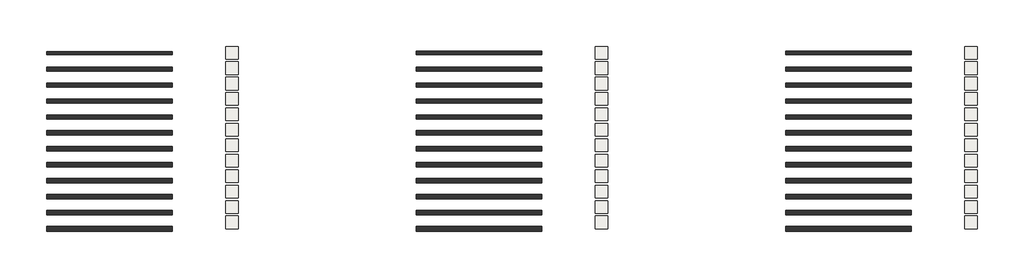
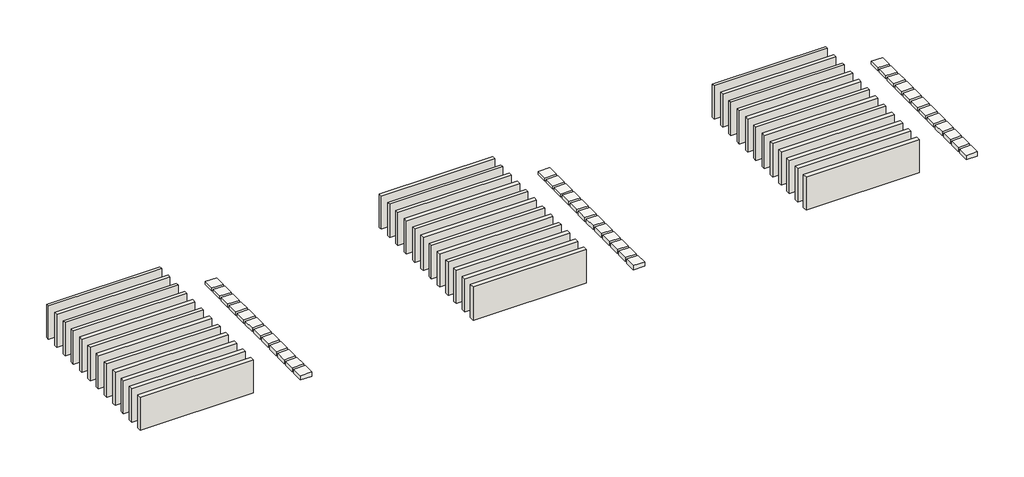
# One storey: 36 slabs, 36 walls.
"""IFC4 building model written with IfcOpenShell, lengths in millimetres."""

from ifc_helpers import new_model, si_unit, frame, origin, origin_with_axes, place, context, project, spatial, polyline, outline, extrude, element, save

model = new_model("IFC4")

# Units and contexts
model_context = context("Model", 3, world=origin())
ifc_project = project(units=[si_unit("LENGTHUNIT", "METRE", prefix="MILLI")], contexts=[model_context])

# Site, building, storey
site = spatial("IfcSite", under=ifc_project)
building = spatial("IfcBuilding", under=site)
storey = spatial("IfcBuildingStorey", under=building, Name="- SISTEMA A CAPPOTTO INTERNO SU CONTROPARETE - STIFERITE RP", Elevation=0.0)

# Slabs
placement = place(None, origin())
element("IfcSlab", 1, ObjectType="Cappotto interno su controsoffitto STIFERITE RP ʎd 0,022 W/mK 33mm", at=placement, inside=storey, context=model_context, shape_type="SweptSolid", body=[
    extrude(outline(polyline([(17023.7364619, 20109.6199307), (17023.7364619, 19109.6199307), (16023.7364619, 19109.6199307), (16023.7364619, 20109.6199307), (17023.7364619, 20109.6199307)])), frame((0.0, 0.0, -263.5), z_axis=(0.0, 0.0, 1.0), x_axis=(1.0, 0.0, 0.0)), (0.0, 0.0, 1.0), 263.5),
])
element("IfcSlab", 2, ObjectType="Cappotto interno su controsoffitto STIFERITE RP ʎd 0,022 W/mK 43mm", at=placement, inside=storey, context=model_context, shape_type="SweptSolid", body=[
    extrude(outline(polyline([(17023.7364619, 18880.6743729), (17023.7364619, 17880.6743729), (16023.7364619, 17880.6743729), (16023.7364619, 18880.6743729), (17023.7364619, 18880.6743729)])), frame((0.0, 0.0, -293.5), z_axis=(0.0, 0.0, 1.0), x_axis=(1.0, 0.0, 0.0)), (0.0, 0.0, 1.0), 293.5),
])
element("IfcSlab", 3, ObjectType="Cappotto interno su controsoffitto STIFERITE RP ʎd 0,022 W/mK 53mm", at=placement, inside=storey, context=model_context, shape_type="SweptSolid", body=[
    extrude(outline(polyline([(17023.7364619, 17651.7288151), (17023.7364619, 16651.7288151), (16023.7364619, 16651.7288151), (16023.7364619, 17651.7288151), (17023.7364619, 17651.7288151)])), frame((0.0, 0.0, -303.5), z_axis=(0.0, 0.0, 1.0), x_axis=(1.0, 0.0, 0.0)), (0.0, 0.0, 1.0), 303.5),
])
element("IfcSlab", 4, ObjectType="Cappotto interno su controsoffitto STIFERITE RP ʎd 0,022 W/mK 63mm", at=placement, inside=storey, context=model_context, shape_type="SweptSolid", body=[
    extrude(outline(polyline([(17023.7364619, 16422.7832573), (17023.7364619, 15422.7832573), (16023.7364619, 15422.7832573), (16023.7364619, 16422.7832573), (17023.7364619, 16422.7832573)])), frame((0.0, 0.0, -313.5), z_axis=(0.0, 0.0, 1.0), x_axis=(1.0, 0.0, 0.0)), (0.0, 0.0, 1.0), 313.5),
])
element("IfcSlab", 5, ObjectType="Cappotto interno su controsoffitto STIFERITE RP ʎd 0,022 W/mK 73mm", at=placement, inside=storey, context=model_context, shape_type="SweptSolid", body=[
    extrude(outline(polyline([(17023.7364619, 15193.8376995), (17023.7364619, 14193.8376995), (16023.7364619, 14193.8376995), (16023.7364619, 15193.8376995), (17023.7364619, 15193.8376995)])), frame((0.0, 0.0, -323.5), z_axis=(0.0, 0.0, 1.0), x_axis=(1.0, 0.0, 0.0)), (0.0, 0.0, 1.0), 323.5),
])
element("IfcSlab", 6, ObjectType="Cappotto interno su controsoffitto STIFERITE RP ʎd 0,022 W/mK 83mm", at=placement, inside=storey, context=model_context, shape_type="SweptSolid", body=[
    extrude(outline(polyline([(17023.7364619, 13964.8921417), (17023.7364619, 12964.8921417), (16023.7364619, 12964.8921417), (16023.7364619, 13964.8921417), (17023.7364619, 13964.8921417)])), frame((0.0, 0.0, -333.5), z_axis=(0.0, 0.0, 1.0), x_axis=(1.0, 0.0, 0.0)), (0.0, 0.0, 1.0), 333.5),
])
element("IfcSlab", 7, ObjectType="Cappotto interno su controsoffitto STIFERITE RP ʎd 0,022 W/mK 93mm", at=placement, inside=storey, context=model_context, shape_type="SweptSolid", body=[
    extrude(outline(polyline([(17023.7364619, 12735.946584), (17023.7364619, 11735.946584), (16023.7364619, 11735.946584), (16023.7364619, 12735.946584), (17023.7364619, 12735.946584)])), frame((0.0, 0.0, -343.5), z_axis=(0.0, 0.0, 1.0), x_axis=(1.0, 0.0, 0.0)), (0.0, 0.0, 1.0), 343.5),
])
element("IfcSlab", 8, ObjectType="Cappotto interno su controsoffitto STIFERITE RP ʎd 0,022 W/mK 103mm", at=placement, inside=storey, context=model_context, shape_type="SweptSolid", body=[
    extrude(outline(polyline([(17023.7364619, 11507.0010262), (17023.7364619, 10507.0010262), (16023.7364619, 10507.0010262), (16023.7364619, 11507.0010262), (17023.7364619, 11507.0010262)])), frame((0.0, 0.0, -353.5), z_axis=(0.0, 0.0, 1.0), x_axis=(1.0, 0.0, 0.0)), (0.0, 0.0, 1.0), 353.5),
])
element("IfcSlab", 9, ObjectType="Cappotto interno su controsoffitto STIFERITE RP ʎd 0,022 W/mK 113mm", at=placement, inside=storey, context=model_context, shape_type="SweptSolid", body=[
    extrude(outline(polyline([(17023.7364619, 10278.0554684), (17023.7364619, 9278.0554684), (16023.7364619, 9278.0554684), (16023.7364619, 10278.0554684), (17023.7364619, 10278.0554684)])), frame((0.0, 0.0, -363.5), z_axis=(0.0, 0.0, 1.0), x_axis=(1.0, 0.0, 0.0)), (0.0, 0.0, 1.0), 363.5),
])
element("IfcSlab", 10, ObjectType="Cappotto interno su controsoffitto STIFERITE RP ʎd 0,022 W/mK 123mm", at=placement, inside=storey, context=model_context, shape_type="SweptSolid", body=[
    extrude(outline(polyline([(17023.7364619, 9049.1099106), (17023.7364619, 8049.1099106), (16023.7364619, 8049.1099106), (16023.7364619, 9049.1099106), (17023.7364619, 9049.1099106)])), frame((0.0, 0.0, -373.5), z_axis=(0.0, 0.0, 1.0), x_axis=(1.0, 0.0, 0.0)), (0.0, 0.0, 1.0), 373.5),
])
element("IfcSlab", 11, ObjectType="Cappotto interno su controsoffitto STIFERITE RP ʎd 0,022 W/mK 133mm", at=placement, inside=storey, context=model_context, shape_type="SweptSolid", body=[
    extrude(outline(polyline([(17023.7364619, 7820.1643528), (17023.7364619, 6820.1643528), (16023.7364619, 6820.1643528), (16023.7364619, 7820.1643528), (17023.7364619, 7820.1643528)])), frame((0.0, 0.0, -383.5), z_axis=(0.0, 0.0, 1.0), x_axis=(1.0, 0.0, 0.0)), (0.0, 0.0, 1.0), 383.5),
])
element("IfcSlab", 12, ObjectType="Cappotto interno su controsoffitto STIFERITE RP ʎd 0,022 W/mK 153mm", at=placement, inside=storey, context=model_context, shape_type="SweptSolid", body=[
    extrude(outline(polyline([(17023.7364619, 6591.218795), (17023.7364619, 5591.218795), (16023.7364619, 5591.218795), (16023.7364619, 6591.218795), (17023.7364619, 6591.218795)])), frame((0.0, 0.0, -403.5), z_axis=(0.0, 0.0, 1.0), x_axis=(1.0, 0.0, 0.0)), (0.0, 0.0, 1.0), 403.5),
])
element("IfcSlab", 13, ObjectType="Cappotto interno su controsoffitto STIFERITE RP WP ʎd 0,022 W/mK 33mm", at=placement, inside=storey, context=model_context, shape_type="SweptSolid", body=[
    extrude(outline(polyline([(46423.7364619, 20109.6199307), (46423.7364619, 19109.6199307), (45423.7364619, 19109.6199307), (45423.7364619, 20109.6199307), (46423.7364619, 20109.6199307)])), frame((0.0, 0.0, -283.5), z_axis=(0.0, 0.0, 1.0), x_axis=(1.0, 0.0, 0.0)), (0.0, 0.0, 1.0), 283.5),
])
element("IfcSlab", 14, ObjectType="Cappotto interno su controsoffitto STIFERITE RP WP ʎd 0,022 W/mK 43mm", at=placement, inside=storey, context=model_context, shape_type="SweptSolid", body=[
    extrude(outline(polyline([(46423.7364619, 18880.6743729), (46423.7364619, 17880.6743729), (45423.7364619, 17880.6743729), (45423.7364619, 18880.6743729), (46423.7364619, 18880.6743729)])), frame((0.0, 0.0, -293.5), z_axis=(0.0, 0.0, 1.0), x_axis=(1.0, 0.0, 0.0)), (0.0, 0.0, 1.0), 293.5),
])
element("IfcSlab", 15, ObjectType="Cappotto interno su controsoffitto STIFERITE RP WP ʎd 0,022 W/mK 53mm", at=placement, inside=storey, context=model_context, shape_type="SweptSolid", body=[
    extrude(outline(polyline([(46423.7364619, 17651.7288151), (46423.7364619, 16651.7288151), (45423.7364619, 16651.7288151), (45423.7364619, 17651.7288151), (46423.7364619, 17651.7288151)])), frame((0.0, 0.0, -303.5), z_axis=(0.0, 0.0, 1.0), x_axis=(1.0, 0.0, 0.0)), (0.0, 0.0, 1.0), 303.5),
])
element("IfcSlab", 16, ObjectType="Cappotto interno su controsoffitto STIFERITE RP WP ʎd 0,022 W/mK 63mm", at=placement, inside=storey, context=model_context, shape_type="SweptSolid", body=[
    extrude(outline(polyline([(46423.7364619, 16422.7832573), (46423.7364619, 15422.7832573), (45423.7364619, 15422.7832573), (45423.7364619, 16422.7832573), (46423.7364619, 16422.7832573)])), frame((0.0, 0.0, -313.5), z_axis=(0.0, 0.0, 1.0), x_axis=(1.0, 0.0, 0.0)), (0.0, 0.0, 1.0), 313.5),
])
element("IfcSlab", 17, ObjectType="Cappotto interno su controsoffitto STIFERITE RP WP ʎd 0,022 W/mK 73mm", at=placement, inside=storey, context=model_context, shape_type="SweptSolid", body=[
    extrude(outline(polyline([(46423.7364619, 15193.8376995), (46423.7364619, 14193.8376995), (45423.7364619, 14193.8376995), (45423.7364619, 15193.8376995), (46423.7364619, 15193.8376995)])), frame((0.0, 0.0, -323.5), z_axis=(0.0, 0.0, 1.0), x_axis=(1.0, 0.0, 0.0)), (0.0, 0.0, 1.0), 323.5),
])
element("IfcSlab", 18, ObjectType="Cappotto interno su controsoffitto STIFERITE RP WP ʎd 0,022 W/mK 83mm", at=placement, inside=storey, context=model_context, shape_type="SweptSolid", body=[
    extrude(outline(polyline([(46423.7364619, 13964.8921417), (46423.7364619, 12964.8921417), (45423.7364619, 12964.8921417), (45423.7364619, 13964.8921417), (46423.7364619, 13964.8921417)])), frame((0.0, 0.0, -333.5), z_axis=(0.0, 0.0, 1.0), x_axis=(1.0, 0.0, 0.0)), (0.0, 0.0, 1.0), 333.5),
])
element("IfcSlab", 19, ObjectType="Cappotto interno su controsoffitto STIFERITE RP WP ʎd 0,022 W/mK 93mm", at=placement, inside=storey, context=model_context, shape_type="SweptSolid", body=[
    extrude(outline(polyline([(46423.7364619, 12735.946584), (46423.7364619, 11735.946584), (45423.7364619, 11735.946584), (45423.7364619, 12735.946584), (46423.7364619, 12735.946584)])), frame((0.0, 0.0, -343.5), z_axis=(0.0, 0.0, 1.0), x_axis=(1.0, 0.0, 0.0)), (0.0, 0.0, 1.0), 343.5),
])
element("IfcSlab", 20, ObjectType="Cappotto interno su controsoffitto STIFERITE RP WP ʎd 0,022 W/mK 103mm", at=placement, inside=storey, context=model_context, shape_type="SweptSolid", body=[
    extrude(outline(polyline([(46423.7364619, 11507.0010262), (46423.7364619, 10507.0010262), (45423.7364619, 10507.0010262), (45423.7364619, 11507.0010262), (46423.7364619, 11507.0010262)])), frame((0.0, 0.0, -353.5), z_axis=(0.0, 0.0, 1.0), x_axis=(1.0, 0.0, 0.0)), (0.0, 0.0, 1.0), 353.5),
])
element("IfcSlab", 21, ObjectType="Cappotto interno su controsoffitto STIFERITE RP WP ʎd 0,022 W/mK 113mm", at=placement, inside=storey, context=model_context, shape_type="SweptSolid", body=[
    extrude(outline(polyline([(46423.7364619, 10278.0554684), (46423.7364619, 9278.0554684), (45423.7364619, 9278.0554684), (45423.7364619, 10278.0554684), (46423.7364619, 10278.0554684)])), frame((0.0, 0.0, -363.5), z_axis=(0.0, 0.0, 1.0), x_axis=(1.0, 0.0, 0.0)), (0.0, 0.0, 1.0), 363.5),
])
element("IfcSlab", 22, ObjectType="Cappotto interno su controsoffitto STIFERITE RP WP ʎd 0,022 W/mK 123mm", at=placement, inside=storey, context=model_context, shape_type="SweptSolid", body=[
    extrude(outline(polyline([(46423.7364619, 9049.1099106), (46423.7364619, 8049.1099106), (45423.7364619, 8049.1099106), (45423.7364619, 9049.1099106), (46423.7364619, 9049.1099106)])), frame((0.0, 0.0, -373.5), z_axis=(0.0, 0.0, 1.0), x_axis=(1.0, 0.0, 0.0)), (0.0, 0.0, 1.0), 373.5),
])
element("IfcSlab", 23, ObjectType="Cappotto interno su controsoffitto STIFERITE RP WP ʎd 0,022 W/mK 133mm", at=placement, inside=storey, context=model_context, shape_type="SweptSolid", body=[
    extrude(outline(polyline([(46423.7364619, 7820.1643528), (46423.7364619, 6820.1643528), (45423.7364619, 6820.1643528), (45423.7364619, 7820.1643528), (46423.7364619, 7820.1643528)])), frame((0.0, 0.0, -383.5), z_axis=(0.0, 0.0, 1.0), x_axis=(1.0, 0.0, 0.0)), (0.0, 0.0, 1.0), 383.5),
])
element("IfcSlab", 24, ObjectType="Cappotto interno su controsoffitto STIFERITE RP WP ʎd 0,022 W/mK 153mm", at=placement, inside=storey, context=model_context, shape_type="SweptSolid", body=[
    extrude(outline(polyline([(46423.7364619, 6591.218795), (46423.7364619, 5591.218795), (45423.7364619, 5591.218795), (45423.7364619, 6591.218795), (46423.7364619, 6591.218795)])), frame((0.0, 0.0, -403.5), z_axis=(0.0, 0.0, 1.0), x_axis=(1.0, 0.0, 0.0)), (0.0, 0.0, 1.0), 403.5),
])
element("IfcSlab", 25, ObjectType="Cappotto interno su controsoffitto STIFERITE RP A1 ʎd 0,022 W/mK 33mm", at=placement, inside=storey, context=model_context, shape_type="SweptSolid", body=[
    extrude(outline(polyline([(75823.7364619, 20109.6199307), (75823.7364619, 19109.6199307), (74823.7364619, 19109.6199307), (74823.7364619, 20109.6199307), (75823.7364619, 20109.6199307)])), frame((0.0, 0.0, -283.5), z_axis=(0.0, 0.0, 1.0), x_axis=(1.0, 0.0, 0.0)), (0.0, 0.0, 1.0), 283.5),
])
element("IfcSlab", 26, ObjectType="Cappotto interno su controsoffitto STIFERITE RP A1 ʎd 0,022 W/mK 43mm", at=placement, inside=storey, context=model_context, shape_type="SweptSolid", body=[
    extrude(outline(polyline([(75823.7364619, 18880.6743729), (75823.7364619, 17880.6743729), (74823.7364619, 17880.6743729), (74823.7364619, 18880.6743729), (75823.7364619, 18880.6743729)])), frame((0.0, 0.0, -293.5), z_axis=(0.0, 0.0, 1.0), x_axis=(1.0, 0.0, 0.0)), (0.0, 0.0, 1.0), 293.5),
])
element("IfcSlab", 27, ObjectType="Cappotto interno su controsoffitto STIFERITE RP A1 ʎd 0,022 W/mK 53mm", at=placement, inside=storey, context=model_context, shape_type="SweptSolid", body=[
    extrude(outline(polyline([(75823.7364619, 17651.7288151), (75823.7364619, 16651.7288151), (74823.7364619, 16651.7288151), (74823.7364619, 17651.7288151), (75823.7364619, 17651.7288151)])), frame((0.0, 0.0, -303.5), z_axis=(0.0, 0.0, 1.0), x_axis=(1.0, 0.0, 0.0)), (0.0, 0.0, 1.0), 303.5),
])
element("IfcSlab", 28, ObjectType="Cappotto interno su controsoffitto STIFERITE RP A1 ʎd 0,022 W/mK 63mm", at=placement, inside=storey, context=model_context, shape_type="SweptSolid", body=[
    extrude(outline(polyline([(75823.7364619, 16422.7832573), (75823.7364619, 15422.7832573), (74823.7364619, 15422.7832573), (74823.7364619, 16422.7832573), (75823.7364619, 16422.7832573)])), frame((0.0, 0.0, -313.5), z_axis=(0.0, 0.0, 1.0), x_axis=(1.0, 0.0, 0.0)), (0.0, 0.0, 1.0), 313.5),
])
element("IfcSlab", 29, ObjectType="Cappotto interno su controsoffitto STIFERITE RP A1 ʎd 0,022 W/mK 73mm", at=placement, inside=storey, context=model_context, shape_type="SweptSolid", body=[
    extrude(outline(polyline([(75823.7364619, 15193.8376995), (75823.7364619, 14193.8376995), (74823.7364619, 14193.8376995), (74823.7364619, 15193.8376995), (75823.7364619, 15193.8376995)])), frame((0.0, 0.0, -323.5), z_axis=(0.0, 0.0, 1.0), x_axis=(1.0, 0.0, 0.0)), (0.0, 0.0, 1.0), 323.5),
])
element("IfcSlab", 30, ObjectType="Cappotto interno su controsoffitto STIFERITE RP A1 ʎd 0,022 W/mK 83mm", at=placement, inside=storey, context=model_context, shape_type="SweptSolid", body=[
    extrude(outline(polyline([(75823.7364619, 13964.8921417), (75823.7364619, 12964.8921417), (74823.7364619, 12964.8921417), (74823.7364619, 13964.8921417), (75823.7364619, 13964.8921417)])), frame((0.0, 0.0, -333.5), z_axis=(0.0, 0.0, 1.0), x_axis=(1.0, 0.0, 0.0)), (0.0, 0.0, 1.0), 333.5),
])
element("IfcSlab", 31, ObjectType="Cappotto interno su controsoffitto STIFERITE RP A1 ʎd 0,022 W/mK 93mm", at=placement, inside=storey, context=model_context, shape_type="SweptSolid", body=[
    extrude(outline(polyline([(75823.7364619, 12735.946584), (75823.7364619, 11735.946584), (74823.7364619, 11735.946584), (74823.7364619, 12735.946584), (75823.7364619, 12735.946584)])), frame((0.0, 0.0, -343.5), z_axis=(0.0, 0.0, 1.0), x_axis=(1.0, 0.0, 0.0)), (0.0, 0.0, 1.0), 343.5),
])
element("IfcSlab", 32, ObjectType="Cappotto interno su controsoffitto STIFERITE RP A1 ʎd 0,022 W/mK 103mm", at=placement, inside=storey, context=model_context, shape_type="SweptSolid", body=[
    extrude(outline(polyline([(75823.7364619, 11507.0010262), (75823.7364619, 10507.0010262), (74823.7364619, 10507.0010262), (74823.7364619, 11507.0010262), (75823.7364619, 11507.0010262)])), frame((0.0, 0.0, -353.5), z_axis=(0.0, 0.0, 1.0), x_axis=(1.0, 0.0, 0.0)), (0.0, 0.0, 1.0), 353.5),
])
element("IfcSlab", 33, ObjectType="Cappotto interno su controsoffitto STIFERITE RP A1 ʎd 0,022 W/mK 113mm", at=placement, inside=storey, context=model_context, shape_type="SweptSolid", body=[
    extrude(outline(polyline([(75823.7364619, 10278.0554684), (75823.7364619, 9278.0554684), (74823.7364619, 9278.0554684), (74823.7364619, 10278.0554684), (75823.7364619, 10278.0554684)])), frame((0.0, 0.0, -363.5), z_axis=(0.0, 0.0, 1.0), x_axis=(1.0, 0.0, 0.0)), (0.0, 0.0, 1.0), 363.5),
])
element("IfcSlab", 34, ObjectType="Cappotto interno su controsoffitto STIFERITE RP A1 ʎd 0,022 W/mK 123mm", at=placement, inside=storey, context=model_context, shape_type="SweptSolid", body=[
    extrude(outline(polyline([(75823.7364619, 9049.1099106), (75823.7364619, 8049.1099106), (74823.7364619, 8049.1099106), (74823.7364619, 9049.1099106), (75823.7364619, 9049.1099106)])), frame((0.0, 0.0, -373.5), z_axis=(0.0, 0.0, 1.0), x_axis=(1.0, 0.0, 0.0)), (0.0, 0.0, 1.0), 373.5),
])
element("IfcSlab", 35, ObjectType="Cappotto interno su controsoffitto STIFERITE RP A1 ʎd 0,022 W/mK 133mm", at=placement, inside=storey, context=model_context, shape_type="SweptSolid", body=[
    extrude(outline(polyline([(75823.7364619, 7820.1643528), (75823.7364619, 6820.1643528), (74823.7364619, 6820.1643528), (74823.7364619, 7820.1643528), (75823.7364619, 7820.1643528)])), frame((0.0, 0.0, -383.5), z_axis=(0.0, 0.0, 1.0), x_axis=(1.0, 0.0, 0.0)), (0.0, 0.0, 1.0), 383.5),
])
element("IfcSlab", 36, ObjectType="Cappotto interno su controsoffitto STIFERITE RP A1 ʎd 0,022 W/mK 153mm", at=placement, inside=storey, context=model_context, shape_type="SweptSolid", body=[
    extrude(outline(polyline([(75823.7364619, 6591.218795), (75823.7364619, 5591.218795), (74823.7364619, 5591.218795), (74823.7364619, 6591.218795), (75823.7364619, 6591.218795)])), frame((0.0, 0.0, -403.5), z_axis=(0.0, 0.0, 1.0), x_axis=(1.0, 0.0, 0.0)), (0.0, 0.0, 1.0), 403.5),
])

# Walls
element("IfcWall", 37, ObjectType="Cappotto interno su controparete STIFERITE RP ʎd 0,022 W/mK 33mm", at=placement, inside=storey, context=model_context, shape_type="SweptSolid", body=[
    extrude(outline(polyline([(11774.500829, 19446.9898402), (1774.500829, 19446.9898402), (1774.500829, 19710.4898402), (11774.500829, 19710.4898402), (11774.500829, 19446.9898402)])), origin_with_axes(), (0.0, 0.0, 1.0), 3100.0),
])
element("IfcWall", 38, ObjectType="Cappotto interno su controparete STIFERITE RP ʎd 0,022 W/mK 43mm", at=placement, inside=storey, context=model_context, shape_type="SweptSolid", body=[
    extrude(outline(polyline([(11774.500829, 18160.3970179), (1774.500829, 18160.3970179), (1774.500829, 18453.8970179), (11774.500829, 18453.8970179), (11774.500829, 18160.3970179)])), origin_with_axes(), (0.0, 0.0, 1.0), 3100.0),
])
element("IfcWall", 39, ObjectType="Cappotto interno su controparete STIFERITE RP ʎd 0,022 W/mK 53mm", at=placement, inside=storey, context=model_context, shape_type="SweptSolid", body=[
    extrude(outline(polyline([(11774.500829, 16883.8041956), (1774.500829, 16883.8041956), (1774.500829, 17187.3041956), (11774.500829, 17187.3041956), (11774.500829, 16883.8041956)])), origin_with_axes(), (0.0, 0.0, 1.0), 3100.0),
])
element("IfcWall", 40, ObjectType="Cappotto interno su controparete STIFERITE RP ʎd 0,022 W/mK 63mm", at=placement, inside=storey, context=model_context, shape_type="SweptSolid", body=[
    extrude(outline(polyline([(11774.500829, 15602.2113733), (1774.500829, 15602.2113733), (1774.500829, 15925.7113733), (11774.500829, 15925.7113733), (11774.500829, 15602.2113733)])), origin_with_axes(), (0.0, 0.0, 1.0), 3100.0),
])
element("IfcWall", 41, ObjectType="Cappotto interno su controparete STIFERITE RP ʎd 0,022 W/mK 73mm", at=placement, inside=storey, context=model_context, shape_type="SweptSolid", body=[
    extrude(outline(polyline([(11774.500829, 14330.618551), (1774.500829, 14330.618551), (1774.500829, 14654.118551), (11774.500829, 14654.118551), (11774.500829, 14330.618551)])), origin_with_axes(), (0.0, 0.0, 1.0), 3100.0),
])
element("IfcWall", 42, ObjectType="Cappotto interno su controparete STIFERITE RP ʎd 0,022 W/mK 83mm", at=placement, inside=storey, context=model_context, shape_type="SweptSolid", body=[
    extrude(outline(polyline([(11774.500829, 13049.0257287), (1774.500829, 13049.0257287), (1774.500829, 13392.5257287), (11774.500829, 13392.5257287), (11774.500829, 13049.0257287)])), origin_with_axes(), (0.0, 0.0, 1.0), 3100.0),
])
element("IfcWall", 43, ObjectType="Cappotto interno su controparete STIFERITE RP ʎd 0,022 W/mK 93mm", at=placement, inside=storey, context=model_context, shape_type="SweptSolid", body=[
    extrude(outline(polyline([(11774.500829, 11777.4329064), (1774.500829, 11777.4329064), (1774.500829, 12120.9329064), (11774.500829, 12120.9329064), (11774.500829, 11777.4329064)])), origin_with_axes(), (0.0, 0.0, 1.0), 3100.0),
])
element("IfcWall", 44, ObjectType="Cappotto interno su controparete STIFERITE RP ʎd 0,022 W/mK 103mm", at=placement, inside=storey, context=model_context, shape_type="SweptSolid", body=[
    extrude(outline(polyline([(11774.500829, 10500.8400841), (1774.500829, 10500.8400841), (1774.500829, 10854.3400841), (11774.500829, 10854.3400841), (11774.500829, 10500.8400841)])), origin_with_axes(), (0.0, 0.0, 1.0), 3100.0),
])
element("IfcWall", 45, ObjectType="Cappotto interno su controparete STIFERITE RP ʎd 0,022 W/mK 113mm", at=placement, inside=storey, context=model_context, shape_type="SweptSolid", body=[
    extrude(outline(polyline([(11774.500829, 9224.2472619), (1774.500829, 9224.2472619), (1774.500829, 9587.7472619), (11774.500829, 9587.7472619), (11774.500829, 9224.2472619)])), origin_with_axes(), (0.0, 0.0, 1.0), 3100.0),
])
element("IfcWall", 46, ObjectType="Cappotto interno su controparete STIFERITE RP ʎd 0,022 W/mK 123mm", at=placement, inside=storey, context=model_context, shape_type="SweptSolid", body=[
    extrude(outline(polyline([(11774.500829, 7947.6544396), (1774.500829, 7947.6544396), (1774.500829, 8321.1544396), (11774.500829, 8321.1544396), (11774.500829, 7947.6544396)])), origin_with_axes(), (0.0, 0.0, 1.0), 3100.0),
])
element("IfcWall", 47, ObjectType="Cappotto interno su controparete STIFERITE RP ʎd 0,022 W/mK 133mm", at=placement, inside=storey, context=model_context, shape_type="SweptSolid", body=[
    extrude(outline(polyline([(11774.500829, 6671.0616173), (1774.500829, 6671.0616173), (1774.500829, 7054.5616173), (11774.500829, 7054.5616173), (11774.500829, 6671.0616173)])), origin_with_axes(), (0.0, 0.0, 1.0), 3100.0),
])
element("IfcWall", 48, ObjectType="Cappotto interno su controparete STIFERITE RP ʎd 0,022 W/mK 153mm", at=placement, inside=storey, context=model_context, shape_type="SweptSolid", body=[
    extrude(outline(polyline([(11774.500829, 5389.468795), (1774.500829, 5389.468795), (1774.500829, 5792.968795), (11774.500829, 5792.968795), (11774.500829, 5389.468795)])), origin_with_axes(), (0.0, 0.0, 1.0), 3100.0),
])
element("IfcWall", 49, ObjectType="Cappotto interno su controparete STIFERITE RP WP ʎd 0,022 W/mK 33mm", at=placement, inside=storey, context=model_context, shape_type="SweptSolid", body=[
    extrude(outline(polyline([(41174.500829, 19436.9898402), (31174.500829, 19436.9898402), (31174.500829, 19720.4898402), (41174.500829, 19720.4898402), (41174.500829, 19436.9898402)])), origin_with_axes(), (0.0, 0.0, 1.0), 3100.0),
])
element("IfcWall", 50, ObjectType="Cappotto interno su controparete STIFERITE RP WP ʎd 0,022 W/mK 43mm", at=placement, inside=storey, context=model_context, shape_type="SweptSolid", body=[
    extrude(outline(polyline([(41174.500829, 18160.3970179), (31174.500829, 18160.3970179), (31174.500829, 18453.8970179), (41174.500829, 18453.8970179), (41174.500829, 18160.3970179)])), origin_with_axes(), (0.0, 0.0, 1.0), 3100.0),
])
element("IfcWall", 51, ObjectType="Cappotto interno su controparete STIFERITE RP WP ʎd 0,022 W/mK 53mm", at=placement, inside=storey, context=model_context, shape_type="SweptSolid", body=[
    extrude(outline(polyline([(41174.500829, 16883.8041956), (31174.500829, 16883.8041956), (31174.500829, 17187.3041956), (41174.500829, 17187.3041956), (41174.500829, 16883.8041956)])), origin_with_axes(), (0.0, 0.0, 1.0), 3100.0),
])
element("IfcWall", 52, ObjectType="Cappotto interno su controparete STIFERITE RP WP ʎd 0,022 W/mK 63mm", at=placement, inside=storey, context=model_context, shape_type="SweptSolid", body=[
    extrude(outline(polyline([(41174.500829, 15602.2113733), (31174.500829, 15602.2113733), (31174.500829, 15925.7113733), (41174.500829, 15925.7113733), (41174.500829, 15602.2113733)])), origin_with_axes(), (0.0, 0.0, 1.0), 3100.0),
])
element("IfcWall", 53, ObjectType="Cappotto interno su controparete STIFERITE RP WP ʎd 0,022 W/mK 73mm", at=placement, inside=storey, context=model_context, shape_type="SweptSolid", body=[
    extrude(outline(polyline([(41174.500829, 14330.618551), (31174.500829, 14330.618551), (31174.500829, 14654.118551), (41174.500829, 14654.118551), (41174.500829, 14330.618551)])), origin_with_axes(), (0.0, 0.0, 1.0), 3100.0),
])
element("IfcWall", 54, ObjectType="Cappotto interno su controparete STIFERITE RP WP ʎd 0,022 W/mK 83mm", at=placement, inside=storey, context=model_context, shape_type="SweptSolid", body=[
    extrude(outline(polyline([(41174.500829, 13049.0257287), (31174.500829, 13049.0257287), (31174.500829, 13392.5257287), (41174.500829, 13392.5257287), (41174.500829, 13049.0257287)])), origin_with_axes(), (0.0, 0.0, 1.0), 3100.0),
])
element("IfcWall", 55, ObjectType="Cappotto interno su controparete STIFERITE RP WP ʎd 0,022 W/mK 93mm", at=placement, inside=storey, context=model_context, shape_type="SweptSolid", body=[
    extrude(outline(polyline([(41174.500829, 11777.4329064), (31174.500829, 11777.4329064), (31174.500829, 12120.9329064), (41174.500829, 12120.9329064), (41174.500829, 11777.4329064)])), origin_with_axes(), (0.0, 0.0, 1.0), 3100.0),
])
element("IfcWall", 56, ObjectType="Cappotto interno su controparete STIFERITE RP WP ʎd 0,022 W/mK 103mm", at=placement, inside=storey, context=model_context, shape_type="SweptSolid", body=[
    extrude(outline(polyline([(41174.500829, 10500.8400841), (31174.500829, 10500.8400841), (31174.500829, 10854.3400841), (41174.500829, 10854.3400841), (41174.500829, 10500.8400841)])), origin_with_axes(), (0.0, 0.0, 1.0), 3100.0),
])
element("IfcWall", 57, ObjectType="Cappotto interno su controparete STIFERITE RP WP ʎd 0,022 W/mK 113mm", at=placement, inside=storey, context=model_context, shape_type="SweptSolid", body=[
    extrude(outline(polyline([(41174.500829, 9224.2472619), (31174.500829, 9224.2472619), (31174.500829, 9587.7472619), (41174.500829, 9587.7472619), (41174.500829, 9224.2472619)])), origin_with_axes(), (0.0, 0.0, 1.0), 3100.0),
])
element("IfcWall", 58, ObjectType="Cappotto interno su controparete STIFERITE RP WP ʎd 0,022 W/mK 123mm", at=placement, inside=storey, context=model_context, shape_type="SweptSolid", body=[
    extrude(outline(polyline([(41174.500829, 7947.6544396), (31174.500829, 7947.6544396), (31174.500829, 8321.1544396), (41174.500829, 8321.1544396), (41174.500829, 7947.6544396)])), origin_with_axes(), (0.0, 0.0, 1.0), 3100.0),
])
element("IfcWall", 59, ObjectType="Cappotto interno su controparete STIFERITE RP WP ʎd 0,022 W/mK 133mm", at=placement, inside=storey, context=model_context, shape_type="SweptSolid", body=[
    extrude(outline(polyline([(41174.500829, 6671.0616173), (31174.500829, 6671.0616173), (31174.500829, 7054.5616173), (41174.500829, 7054.5616173), (41174.500829, 6671.0616173)])), origin_with_axes(), (0.0, 0.0, 1.0), 3100.0),
])
element("IfcWall", 60, ObjectType="Cappotto interno su controparete STIFERITE RP WP ʎd 0,022 W/mK 153mm", at=placement, inside=storey, context=model_context, shape_type="SweptSolid", body=[
    extrude(outline(polyline([(41174.500829, 5389.468795), (31174.500829, 5389.468795), (31174.500829, 5792.968795), (41174.500829, 5792.968795), (41174.500829, 5389.468795)])), origin_with_axes(), (0.0, 0.0, 1.0), 3100.0),
])
element("IfcWall", 61, ObjectType="Cappotto interno su controparete STIFERITE RP A1 ʎd 0,022 W/mK 33mm", at=placement, inside=storey, context=model_context, shape_type="SweptSolid", body=[
    extrude(outline(polyline([(70574.500829, 19436.9898402), (60574.500829, 19436.9898402), (60574.500829, 19720.4898402), (70574.500829, 19720.4898402), (70574.500829, 19436.9898402)])), origin_with_axes(), (0.0, 0.0, 1.0), 3100.0),
])
element("IfcWall", 62, ObjectType="Cappotto interno su controparete STIFERITE RP A1 ʎd 0,022 W/mK 43mm", at=placement, inside=storey, context=model_context, shape_type="SweptSolid", body=[
    extrude(outline(polyline([(70574.500829, 18160.3970179), (60574.500829, 18160.3970179), (60574.500829, 18453.8970179), (70574.500829, 18453.8970179), (70574.500829, 18160.3970179)])), origin_with_axes(), (0.0, 0.0, 1.0), 3100.0),
])
element("IfcWall", 63, ObjectType="Cappotto interno su controparete STIFERITE RP A1 ʎd 0,022 W/mK 53mm", at=placement, inside=storey, context=model_context, shape_type="SweptSolid", body=[
    extrude(outline(polyline([(70574.500829, 16883.8041956), (60574.500829, 16883.8041956), (60574.500829, 17187.3041956), (70574.500829, 17187.3041956), (70574.500829, 16883.8041956)])), origin_with_axes(), (0.0, 0.0, 1.0), 3100.0),
])
element("IfcWall", 64, ObjectType="Cappotto interno su controparete STIFERITE RP A1 ʎd 0,022 W/mK 63mm", at=placement, inside=storey, context=model_context, shape_type="SweptSolid", body=[
    extrude(outline(polyline([(70574.500829, 15602.2113733), (60574.500829, 15602.2113733), (60574.500829, 15925.7113733), (70574.500829, 15925.7113733), (70574.500829, 15602.2113733)])), origin_with_axes(), (0.0, 0.0, 1.0), 3100.0),
])
element("IfcWall", 65, ObjectType="Cappotto interno su controparete STIFERITE RP A1 ʎd 0,022 W/mK 73mm", at=placement, inside=storey, context=model_context, shape_type="SweptSolid", body=[
    extrude(outline(polyline([(70574.500829, 14330.618551), (60574.500829, 14330.618551), (60574.500829, 14654.118551), (70574.500829, 14654.118551), (70574.500829, 14330.618551)])), origin_with_axes(), (0.0, 0.0, 1.0), 3100.0),
])
element("IfcWall", 66, ObjectType="Cappotto interno su controparete STIFERITE RP A1 ʎd 0,022 W/mK 83mm", at=placement, inside=storey, context=model_context, shape_type="SweptSolid", body=[
    extrude(outline(polyline([(70574.500829, 13049.0257287), (60574.500829, 13049.0257287), (60574.500829, 13392.5257287), (70574.500829, 13392.5257287), (70574.500829, 13049.0257287)])), origin_with_axes(), (0.0, 0.0, 1.0), 3100.0),
])
element("IfcWall", 67, ObjectType="Cappotto interno su controparete STIFERITE RP A1 ʎd 0,022 W/mK 93mm", at=placement, inside=storey, context=model_context, shape_type="SweptSolid", body=[
    extrude(outline(polyline([(70574.500829, 11777.4329064), (60574.500829, 11777.4329064), (60574.500829, 12120.9329064), (70574.500829, 12120.9329064), (70574.500829, 11777.4329064)])), origin_with_axes(), (0.0, 0.0, 1.0), 3100.0),
])
element("IfcWall", 68, ObjectType="Cappotto interno su controparete STIFERITE RP A1 ʎd 0,022 W/mK 103mm", at=placement, inside=storey, context=model_context, shape_type="SweptSolid", body=[
    extrude(outline(polyline([(70574.500829, 10500.8400841), (60574.500829, 10500.8400841), (60574.500829, 10854.3400841), (70574.500829, 10854.3400841), (70574.500829, 10500.8400841)])), origin_with_axes(), (0.0, 0.0, 1.0), 3100.0),
])
element("IfcWall", 69, ObjectType="Cappotto interno su controparete STIFERITE RP A1 ʎd 0,022 W/mK 113mm", at=placement, inside=storey, context=model_context, shape_type="SweptSolid", body=[
    extrude(outline(polyline([(70574.500829, 9224.2472619), (60574.500829, 9224.2472619), (60574.500829, 9587.7472619), (70574.500829, 9587.7472619), (70574.500829, 9224.2472619)])), origin_with_axes(), (0.0, 0.0, 1.0), 3100.0),
])
element("IfcWall", 70, ObjectType="Cappotto interno su controparete STIFERITE RP A1 ʎd 0,022 W/mK 123mm", at=placement, inside=storey, context=model_context, shape_type="SweptSolid", body=[
    extrude(outline(polyline([(70574.500829, 7947.6544396), (60574.500829, 7947.6544396), (60574.500829, 8321.1544396), (70574.500829, 8321.1544396), (70574.500829, 7947.6544396)])), origin_with_axes(), (0.0, 0.0, 1.0), 3100.0),
])
element("IfcWall", 71, ObjectType="Cappotto interno su controparete STIFERITE RP A1 ʎd 0,022 W/mK 133mm", at=placement, inside=storey, context=model_context, shape_type="SweptSolid", body=[
    extrude(outline(polyline([(70574.500829, 6671.0616173), (60574.500829, 6671.0616173), (60574.500829, 7054.5616173), (70574.500829, 7054.5616173), (70574.500829, 6671.0616173)])), origin_with_axes(), (0.0, 0.0, 1.0), 3100.0),
])
element("IfcWall", 72, ObjectType="Cappotto interno su controparete STIFERITE RP A1 ʎd 0,022 W/mK 153mm", at=placement, inside=storey, context=model_context, shape_type="SweptSolid", body=[
    extrude(outline(polyline([(70574.500829, 5389.468795), (60574.500829, 5389.468795), (60574.500829, 5792.968795), (70574.500829, 5792.968795), (70574.500829, 5389.468795)])), origin_with_axes(), (0.0, 0.0, 1.0), 3100.0),
])

save(model, "model.ifc")
